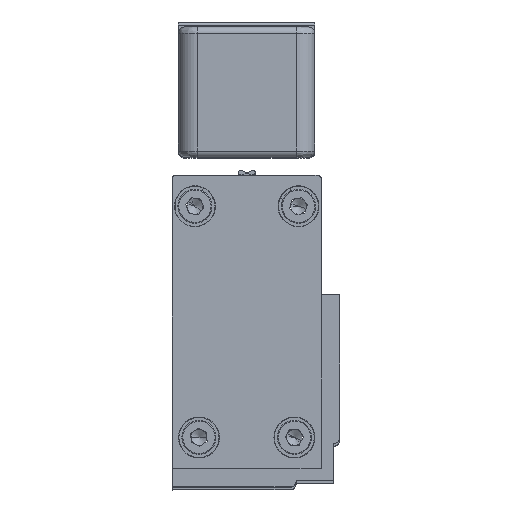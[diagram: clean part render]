
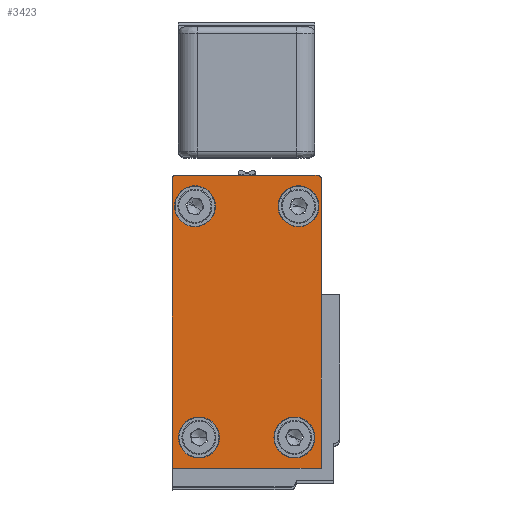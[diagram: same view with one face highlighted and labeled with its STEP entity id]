
A CAD part, top view. The second image highlights one B-rep face of the part: STEP entity #3423.
In plain terms, the highlighted planar face has unit normal (0, 0, 1).
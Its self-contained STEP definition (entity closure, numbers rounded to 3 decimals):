
#518 = EDGE_CURVE ( 'NONE', #16987, #1589, #14751, .T. ) ;
#638 = VERTEX_POINT ( 'NONE', #7372 ) ;
#1221 = DIRECTION ( 'NONE',  ( -1., 0., 0. ) ) ;
#1255 = DIRECTION ( 'NONE',  ( 0., 0., -1. ) ) ;
#1289 = CARTESIAN_POINT ( 'NONE',  ( 1.676, -15.887, 3185. ) ) ;
#1352 = CIRCLE ( 'NONE', #11502, 3.302 ) ;
#1589 = VERTEX_POINT ( 'NONE', #22729 ) ;
#1672 = EDGE_LOOP ( 'NONE', ( #14764, #19391 ) ) ;
#2150 = VERTEX_POINT ( 'NONE', #14372 ) ;
#2532 = CIRCLE ( 'NONE', #13304, 3.302 ) ;
#2681 = EDGE_CURVE ( 'NONE', #22680, #16987, #32158, .T. ) ;
#2795 = CARTESIAN_POINT ( 'NONE',  ( -17.667, 21.401, 3185. ) ) ;
#2907 = DIRECTION ( 'NONE',  ( 0., 1., 0. ) ) ;
#3095 = CARTESIAN_POINT ( 'NONE',  ( -18.014, 25.871, 3185. ) ) ;
#3423 = ADVANCED_FACE ( 'NONE', ( #20014, #5976, #20846, #26292, #19184 ), #26549, .T. ) ;
#3724 = CARTESIAN_POINT ( 'NONE',  ( 5.485, 26.371, 3185. ) ) ;
#3857 = EDGE_CURVE ( 'NONE', #8940, #8622, #31664, .T. ) ;
#3945 = VECTOR ( 'NONE', #9223, 1000. ) ;
#4136 = VERTEX_POINT ( 'NONE', #11987 ) ;
#4200 = ORIENTED_EDGE ( 'NONE', *, *, #3857, .T. ) ;
#4299 = DIRECTION ( 'NONE',  ( -1., 0., 0. ) ) ;
#4327 = DIRECTION ( 'NONE',  ( 0., 0., -1. ) ) ;
#4332 = DIRECTION ( 'NONE',  ( 0., 0., -1. ) ) ;
#4385 = CARTESIAN_POINT ( 'NONE',  ( -13.714, -15.887, 3185. ) ) ;
#4410 = EDGE_CURVE ( 'NONE', #4136, #4605, #1352, .T. ) ;
#4481 = ORIENTED_EDGE ( 'NONE', *, *, #11021, .F. ) ;
#4605 = VERTEX_POINT ( 'NONE', #2795 ) ;
#5013 = CARTESIAN_POINT ( 'NONE',  ( -17.514, 26.371, 3185. ) ) ;
#5564 = DIRECTION ( 'NONE',  ( 0., 0., -1. ) ) ;
#5657 = ORIENTED_EDGE ( 'NONE', *, *, #16491, .T. ) ;
#5675 = ORIENTED_EDGE ( 'NONE', *, *, #19306, .T. ) ;
#5826 = EDGE_LOOP ( 'NONE', ( #5657, #10031 ) ) ;
#5976 = FACE_BOUND ( 'NONE', #17401, .T. ) ;
#6743 = AXIS2_PLACEMENT_3D ( 'NONE', #16702, #16670, #16639 ) ;
#7133 = CARTESIAN_POINT ( 'NONE',  ( 5.984, -20.888, 3185. ) ) ;
#7372 = CARTESIAN_POINT ( 'NONE',  ( 4.978, -15.887, 3185. ) ) ;
#7385 = CARTESIAN_POINT ( 'NONE',  ( -17.514, 25.871, 3185. ) ) ;
#7570 = EDGE_CURVE ( 'NONE', #2150, #31974, #15172, .T. ) ;
#7792 = DIRECTION ( 'NONE',  ( -1., 0., 0. ) ) ;
#7828 = DIRECTION ( 'NONE',  ( 0., 0., -1. ) ) ;
#7865 = CARTESIAN_POINT ( 'NONE',  ( -14.365, 21.401, 3185. ) ) ;
#8056 = EDGE_CURVE ( 'NONE', #25229, #27572, #15565, .T. ) ;
#8622 = VERTEX_POINT ( 'NONE', #3724 ) ;
#8708 = LINE ( 'NONE', #12395, #15754 ) ;
#8940 = VERTEX_POINT ( 'NONE', #12098 ) ;
#8971 = VECTOR ( 'NONE', #12556, 1000. ) ;
#9177 = CARTESIAN_POINT ( 'NONE',  ( -18.014, -20.888, 3185. ) ) ;
#9223 = DIRECTION ( 'NONE',  ( 1., 0., 0. ) ) ;
#10031 = ORIENTED_EDGE ( 'NONE', *, *, #28279, .T. ) ;
#10124 = EDGE_CURVE ( 'NONE', #8622, #20810, #8708, .T. ) ;
#11021 = EDGE_CURVE ( 'NONE', #29478, #20810, #28992, .T. ) ;
#11470 = EDGE_LOOP ( 'NONE', ( #19369, #16880, #4200, #29809, #4481, #29684, #22713 ) ) ;
#11502 = AXIS2_PLACEMENT_3D ( 'NONE', #7865, #7828, #7792 ) ;
#11949 = VERTEX_POINT ( 'NONE', #20924 ) ;
#11987 = CARTESIAN_POINT ( 'NONE',  ( -11.063, 21.401, 3185. ) ) ;
#12098 = CARTESIAN_POINT ( 'NONE',  ( 5.984, 25.871, 3185. ) ) ;
#12395 = CARTESIAN_POINT ( 'NONE',  ( 5.485, 26.371, 3185. ) ) ;
#12436 = DIRECTION ( 'NONE',  ( -1., 0., 0. ) ) ;
#12556 = DIRECTION ( 'NONE',  ( 0., 1., 0. ) ) ;
#12776 = ORIENTED_EDGE ( 'NONE', *, *, #4410, .T. ) ;
#12809 = VECTOR ( 'NONE', #18907, 1000. ) ;
#13125 = CARTESIAN_POINT ( 'NONE',  ( 5.637, 21.401, 3185. ) ) ;
#13304 = AXIS2_PLACEMENT_3D ( 'NONE', #21769, #21727, #21701 ) ;
#14372 = CARTESIAN_POINT ( 'NONE',  ( -10.412, -15.887, 3185. ) ) ;
#14751 = LINE ( 'NONE', #7133, #8971 ) ;
#14764 = ORIENTED_EDGE ( 'NONE', *, *, #15261, .T. ) ;
#15172 = CIRCLE ( 'NONE', #20702, 3.302 ) ;
#15261 = EDGE_CURVE ( 'NONE', #31974, #2150, #28099, .T. ) ;
#15565 = CIRCLE ( 'NONE', #15871, 3.302 ) ;
#15754 = VECTOR ( 'NONE', #12436, 1000. ) ;
#15871 = AXIS2_PLACEMENT_3D ( 'NONE', #33144, #33025, #32911 ) ;
#16491 = EDGE_CURVE ( 'NONE', #11949, #638, #18408, .T. ) ;
#16639 = DIRECTION ( 'NONE',  ( -1., 0., 0. ) ) ;
#16664 = CARTESIAN_POINT ( 'NONE',  ( 5.984, -20.888, 3185. ) ) ;
#16670 = DIRECTION ( 'NONE',  ( 0., 0., -1. ) ) ;
#16702 = CARTESIAN_POINT ( 'NONE',  ( -13.714, -15.887, 3185. ) ) ;
#16880 = ORIENTED_EDGE ( 'NONE', *, *, #34024, .T. ) ;
#16987 = VERTEX_POINT ( 'NONE', #16664 ) ;
#17200 = DIRECTION ( 'NONE',  ( 0., 1., 0. ) ) ;
#17240 = DIRECTION ( 'NONE',  ( 0., 0., 1. ) ) ;
#17319 = CARTESIAN_POINT ( 'NONE',  ( 5.485, 25.871, 3185. ) ) ;
#17401 = EDGE_LOOP ( 'NONE', ( #18851, #26524 ) ) ;
#18201 = DIRECTION ( 'NONE',  ( 0., 0., -1. ) ) ;
#18408 = CIRCLE ( 'NONE', #30089, 3.302 ) ;
#18713 = CARTESIAN_POINT ( 'NONE',  ( 5.984, 7.11, 3185. ) ) ;
#18839 = DIRECTION ( 'NONE',  ( 0., 1., 0. ) ) ;
#18851 = ORIENTED_EDGE ( 'NONE', *, *, #8056, .T. ) ;
#18907 = DIRECTION ( 'NONE',  ( 0., -1., 0. ) ) ;
#19184 = FACE_OUTER_BOUND ( 'NONE', #11470, .T. ) ;
#19306 = EDGE_CURVE ( 'NONE', #4605, #4136, #2532, .T. ) ;
#19369 = ORIENTED_EDGE ( 'NONE', *, *, #518, .T. ) ;
#19391 = ORIENTED_EDGE ( 'NONE', *, *, #7570, .T. ) ;
#19843 = LINE ( 'NONE', #3095, #12809 ) ;
#20014 = FACE_BOUND ( 'NONE', #20267, .T. ) ;
#20178 = CARTESIAN_POINT ( 'NONE',  ( 2.335, 21.401, 3185. ) ) ;
#20267 = EDGE_LOOP ( 'NONE', ( #5675, #12776 ) ) ;
#20702 = AXIS2_PLACEMENT_3D ( 'NONE', #4385, #4332, #4299 ) ;
#20810 = VERTEX_POINT ( 'NONE', #5013 ) ;
#20846 = FACE_BOUND ( 'NONE', #5826, .T. ) ;
#20924 = CARTESIAN_POINT ( 'NONE',  ( -1.626, -15.887, 3185. ) ) ;
#21369 = CARTESIAN_POINT ( 'NONE',  ( 1.676, -15.887, 3185. ) ) ;
#21701 = DIRECTION ( 'NONE',  ( -1., 0., 0. ) ) ;
#21727 = DIRECTION ( 'NONE',  ( 0., 0., -1. ) ) ;
#21769 = CARTESIAN_POINT ( 'NONE',  ( -14.365, 21.401, 3185. ) ) ;
#21909 = AXIS2_PLACEMENT_3D ( 'NONE', #7385, #18201, #18839 ) ;
#22395 = AXIS2_PLACEMENT_3D ( 'NONE', #21369, #5564, #24082 ) ;
#22572 = CARTESIAN_POINT ( 'NONE',  ( -17.017, -15.887, 3185. ) ) ;
#22680 = VERTEX_POINT ( 'NONE', #33485 ) ;
#22713 = ORIENTED_EDGE ( 'NONE', *, *, #2681, .T. ) ;
#22729 = CARTESIAN_POINT ( 'NONE',  ( 5.984, 7.11, 3185. ) ) ;
#22854 = DIRECTION ( 'NONE',  ( -1., 0., 0. ) ) ;
#22855 = LINE ( 'NONE', #18713, #25355 ) ;
#24082 = DIRECTION ( 'NONE',  ( -1., 0., 0. ) ) ;
#24605 = AXIS2_PLACEMENT_3D ( 'NONE', #20178, #4327, #22854 ) ;
#25229 = VERTEX_POINT ( 'NONE', #28795 ) ;
#25355 = VECTOR ( 'NONE', #2907, 1000. ) ;
#25575 = DIRECTION ( 'NONE',  ( -1., 0., 0. ) ) ;
#25662 = DIRECTION ( 'NONE',  ( 0., 0., 1. ) ) ;
#25667 = CARTESIAN_POINT ( 'NONE',  ( -18.014, -20.888, 3185. ) ) ;
#25848 = CIRCLE ( 'NONE', #24605, 3.302 ) ;
#26292 = FACE_BOUND ( 'NONE', #1672, .T. ) ;
#26524 = ORIENTED_EDGE ( 'NONE', *, *, #27146, .T. ) ;
#26549 = PLANE ( 'NONE',  #30349 ) ;
#27146 = EDGE_CURVE ( 'NONE', #27572, #25229, #25848, .T. ) ;
#27572 = VERTEX_POINT ( 'NONE', #13125 ) ;
#28099 = CIRCLE ( 'NONE', #6743, 3.302 ) ;
#28279 = EDGE_CURVE ( 'NONE', #638, #11949, #32407, .T. ) ;
#28795 = CARTESIAN_POINT ( 'NONE',  ( -0.967, 21.401, 3185. ) ) ;
#28992 = CIRCLE ( 'NONE', #21909, 0.5 ) ;
#29045 = EDGE_CURVE ( 'NONE', #29478, #22680, #19843, .T. ) ;
#29478 = VERTEX_POINT ( 'NONE', #30961 ) ;
#29684 = ORIENTED_EDGE ( 'NONE', *, *, #29045, .T. ) ;
#29809 = ORIENTED_EDGE ( 'NONE', *, *, #10124, .T. ) ;
#30089 = AXIS2_PLACEMENT_3D ( 'NONE', #1289, #1255, #1221 ) ;
#30349 = AXIS2_PLACEMENT_3D ( 'NONE', #25667, #25662, #25575 ) ;
#30961 = CARTESIAN_POINT ( 'NONE',  ( -18.014, 25.871, 3185. ) ) ;
#31277 = AXIS2_PLACEMENT_3D ( 'NONE', #17319, #17240, #17200 ) ;
#31664 = CIRCLE ( 'NONE', #31277, 0.5 ) ;
#31974 = VERTEX_POINT ( 'NONE', #22572 ) ;
#32158 = LINE ( 'NONE', #9177, #3945 ) ;
#32407 = CIRCLE ( 'NONE', #22395, 3.302 ) ;
#32911 = DIRECTION ( 'NONE',  ( -1., 0., 0. ) ) ;
#33025 = DIRECTION ( 'NONE',  ( 0., 0., -1. ) ) ;
#33144 = CARTESIAN_POINT ( 'NONE',  ( 2.335, 21.401, 3185. ) ) ;
#33485 = CARTESIAN_POINT ( 'NONE',  ( -18.014, -20.888, 3185. ) ) ;
#34024 = EDGE_CURVE ( 'NONE', #1589, #8940, #22855, .T. ) ;
